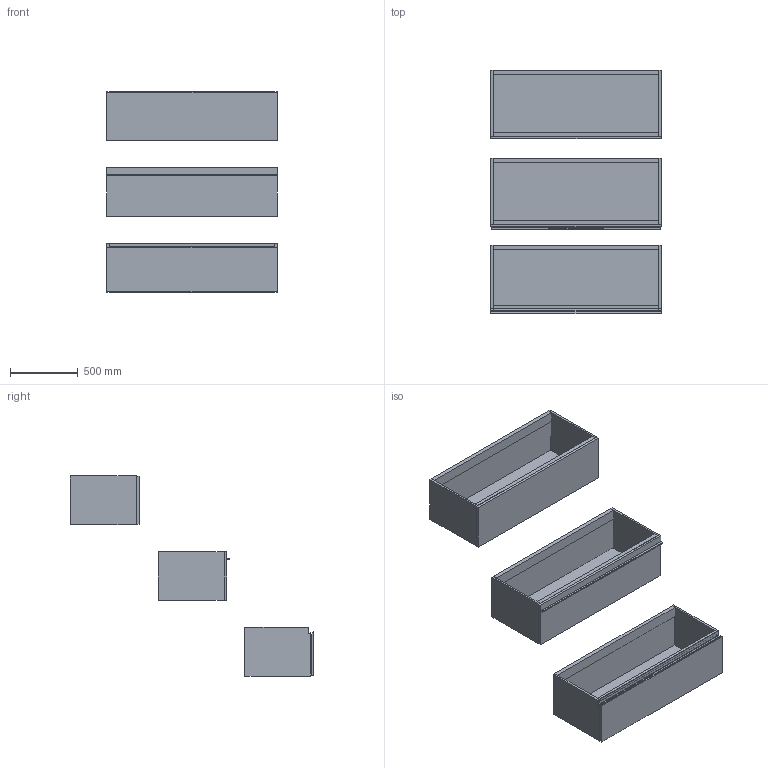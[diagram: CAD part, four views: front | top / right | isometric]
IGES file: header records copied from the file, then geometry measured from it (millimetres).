
Start section: Data from Parasolid IGES Translator 19.0.9, Copyright(c) 2006 Siemens PL M Software. All Rights Reserved.
Global section: file name: noorth-SI-H 36 D 51 W 126_8365.igs; native system: By Siemens PLM Incorporated; preprocessor: XPlus GENERIC/IGES 19.0.9; author: Noname; organization: Noname; date: 20200601.094952; units: metre
Bounding box: 1260 x 1799.15 x 1480.01 mm (x, y, z)
Volume: 84996808.5 mm3; surface area: 12632095.7 mm2
Topology: 23 solids, 23 shells, 196 faces, 418 edges, 258 vertices
Faces by surface type: plane 152, extrusion 16, bspline 16, cylinder 12
